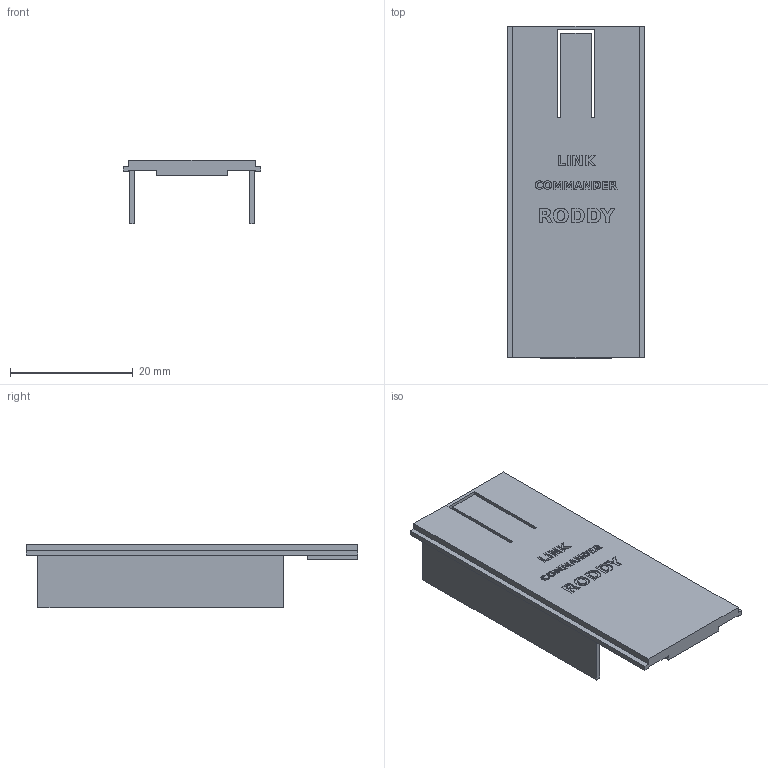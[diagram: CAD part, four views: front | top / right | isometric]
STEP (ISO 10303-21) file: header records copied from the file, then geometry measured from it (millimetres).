
FILE_DESCRIPTION(('Open CASCADE Model'),'2;1');
FILE_NAME('Open CASCADE Shape Model','2026-11-04T10:48:33',('Author'),( 'Open CASCADE'),'Open CASCADE STEP processor 7.9','Open CASCADE 7.9' ,'Unknown');
FILE_SCHEMA(('AUTOMOTIVE_DESIGN { 1 0 10303 214 1 1 1 1 }'));
Length unit declared in the file: millimetre
Products named in the file (1): Open CASCADE STEP translator 7.9 5
Bounding box: 22.4 x 54.1 x 10.3 mm (x, y, z)
Volume: 2463.6 mm3; surface area: 4277.6 mm2
Topology: 1 solids, 1 shells, 314 faces, 852 edges, 568 vertices
Faces by surface type: plane 206, extrusion 108
Entity records: 22452 total; most frequent: CARTESIAN_POINT 6853, DIRECTION 2214, VECTOR 1800, ORIENTED_EDGE 1704, PCURVE 1704, DEFINITIONAL_REPRESENTATION 1704, LINE 1692, B_SPLINE_CURVE_WITH_KNOTS 972
